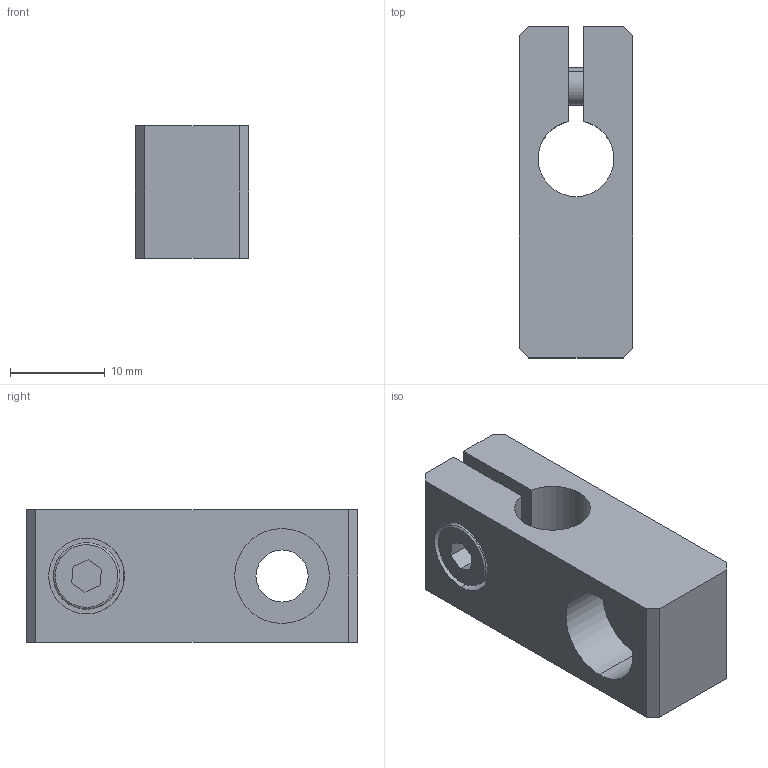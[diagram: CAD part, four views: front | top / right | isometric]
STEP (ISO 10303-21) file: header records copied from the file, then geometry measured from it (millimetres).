
FILE_DESCRIPTION (( 'STEP AP214' ), '1' );
FILE_NAME ('SMBH1-8M5T.STEP', '2022-12-30T01:36:31', ( 'Windows User' ), ( 'P R C' ), 'SwSTEP 2.0', 'SolidWorks 2018', '' );
FILE_SCHEMA (( 'AUTOMOTIVE_DESIGN' ));
Length unit declared in the file: millimetre
Products named in the file (1): SMBH1-8M5T
Bounding box: 12 x 35 x 14 mm (x, y, z)
Volume: 4269.6 mm3; surface area: 3315.2 mm2
Topology: 3 solids, 3 shells, 241 faces, 690 edges, 456 vertices
Faces by surface type: plane 217, cylinder 20, cone 2, bspline 2
Entity records: 10750 total; most frequent: CARTESIAN_POINT 1521, DIRECTION 1392, ORIENTED_EDGE 1380, EDGE_CURVE 690, AXIS2_PLACEMENT_3D 467, VECTOR 458, LINE 458, VERTEX_POINT 456
